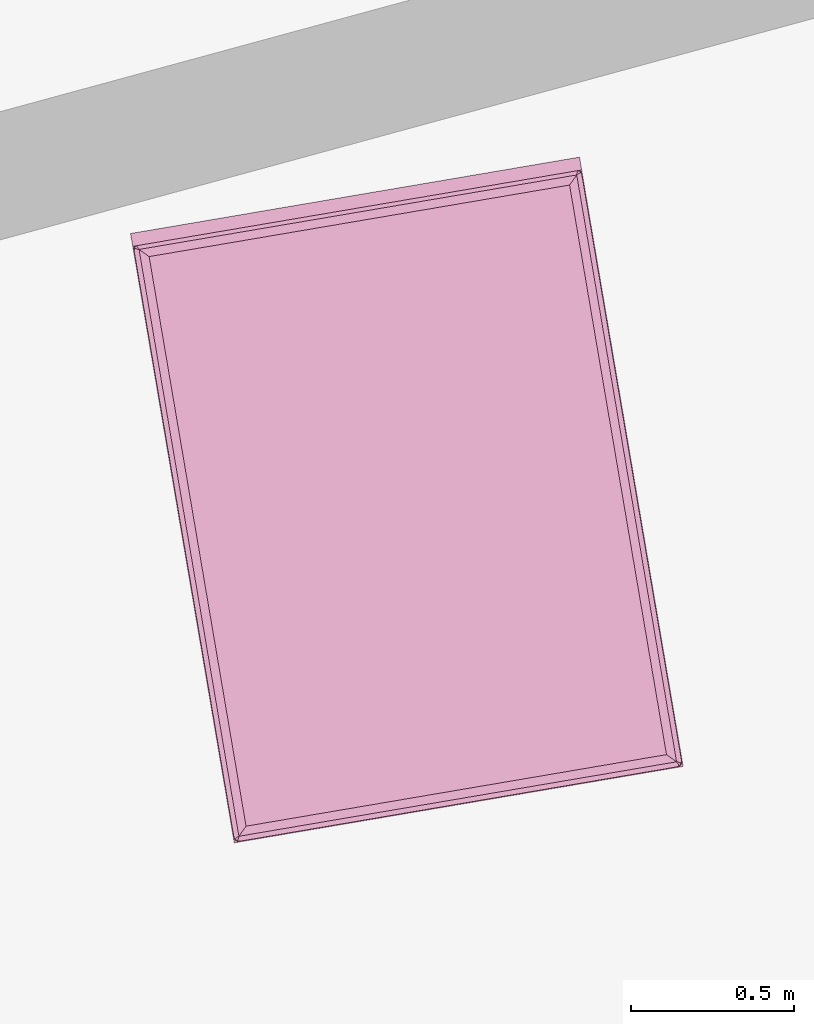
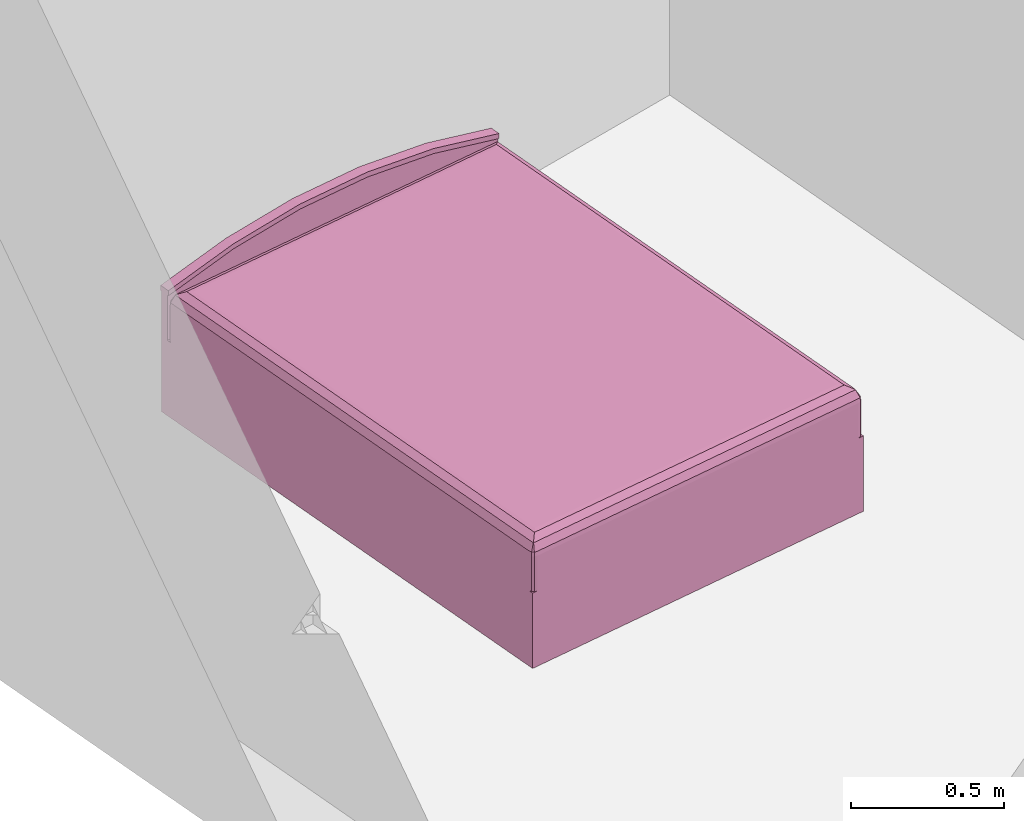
# One storey, part 109 of 121: 1 furnishing.
"""IFC2X3 building model written with IfcOpenShell, lengths in metres."""

import ifcopenshell
import ifcopenshell.guid

model = None  # the IFC model being written
_history = None  # IfcOwnerHistory: only IFC2X3 demands one
_inside = {}  # id of a spatial element -> (the spatial element, [elements in it])
_under = {}  # id of a project, library or spatial element -> (it, [spatial elements below it])
_declared = {}  # id of a project -> (the project, [libraries it declares])
_typed = {}  # id of a type object -> (the type object, [elements of that type])
_made_of = {}  # id of a material, layer set ... -> (it, [elements and type objects made of it])


def new_model(schema):
    """Start an empty IFC model of exactly this schema.

    Asked for "IFC4X3", IfcOpenShell would pick the latest addendum, in which some entities
    have other attributes; the version numbers below select the first issue.
    IFC2X3 requires an IfcOwnerHistory on every rooted entity: one is made here for all.
    """
    global model, _history
    if schema == "IFC4X3":
        model = ifcopenshell.file(schema_version=(4, 3, 0, 0))
    else:
        model = ifcopenshell.file(schema=schema)
    _inside.clear()
    _under.clear()
    _declared.clear()
    _typed.clear()
    _made_of.clear()
    _history = None
    if model.schema == "IFC2X3":
        org = make("IfcOrganization", Name="unknown")
        user = make(
            "IfcPersonAndOrganization",
            ThePerson=make("IfcPerson", FamilyName="unknown"),
            TheOrganization=org,
        )
        app = make(
            "IfcApplication",
            ApplicationDeveloper=org,
            Version="unknown",
            ApplicationFullName="unknown",
            ApplicationIdentifier="unknown",
        )
        _history = make(
            "IfcOwnerHistory",
            OwningUser=user,
            OwningApplication=app,
            ChangeAction="ADDED",
            CreationDate=0,
        )
    return model


def make(cls, **values):
    """One entity of the class cls with the attributes given. An attribute that is None is left unset."""
    return model.create_entity(
        cls, **{name: value for name, value in values.items() if value is not None}
    )


def entity(cls, *values):
    """Any entity or typed value of the class cls, its attributes in the order of the schema. None: left unset."""
    e = model.create_entity(cls)
    for i, value in enumerate(values):
        if value is not None:
            e[i] = value
    return e


def rooted(cls, **values):
    """An entity with a GlobalId (a new one), such as an element, a storey or a relation."""
    return make(cls, GlobalId=ifcopenshell.guid.new(), OwnerHistory=_history, **values)


def si_unit(unit_type, name, prefix=None):
    """IfcSIUnit, for example si_unit("LENGTHUNIT", "METRE", prefix="MILLI")."""
    return make("IfcSIUnit", UnitType=unit_type, Prefix=prefix, Name=name)


def converted_unit(unit_type, name, factor, base, dimensions=None, offset=None):
    """IfcConversionBasedUnit, such as the inch: factor (a typed value) times the base unit."""
    return make(
        "IfcConversionBasedUnit"
        if offset is None
        else "IfcConversionBasedUnitWithOffset",
        ConversionOffset=offset,
        Dimensions=None
        if dimensions is None
        else entity("IfcDimensionalExponents", *dimensions),
        UnitType=unit_type,
        Name=name,
        ConversionFactor=make(
            "IfcMeasureWithUnit", ValueComponent=factor, UnitComponent=base
        ),
    )


def derived_unit(unit_type, elements):
    """IfcDerivedUnit: a product of units, each with its exponent."""
    return make(
        "IfcDerivedUnit",
        Elements=[
            make("IfcDerivedUnitElement", Unit=unit, Exponent=power)
            for unit, power in elements
        ],
        UnitType=unit_type,
    )


def money_unit(currency):
    """IfcMonetaryUnit."""
    return make("IfcMonetaryUnit", Currency=currency)


def assignment(units):
    """IfcUnitAssignment: the units of a project."""
    return None if units is None else make("IfcUnitAssignment", Units=units)


def point(xyz):
    """IfcCartesianPoint."""
    return None if xyz is None else make("IfcCartesianPoint", Coordinates=xyz)


def direction(xyz):
    """IfcDirection."""
    return None if xyz is None else make("IfcDirection", DirectionRatios=xyz)


def frame(location, z_axis=None, x_axis=None):
    """IfcAxis2Placement3D, a coordinate frame: its origin and axes. An axis left out is left unset."""
    return make(
        "IfcAxis2Placement3D",
        Location=point(location),
        Axis=direction(z_axis),
        RefDirection=direction(x_axis),
    )


def origin_with_axes():
    """The frame at (0, 0, 0) with the z axis (0, 0, 1) and the x axis (1, 0, 0) written out."""
    return frame((0.0, 0.0, 0.0), z_axis=(0.0, 0.0, 1.0), x_axis=(1.0, 0.0, 0.0))


def place(relative_to, where):
    """IfcLocalPlacement: puts the frame where relative to a parent placement (None: the world)."""
    return make(
        "IfcLocalPlacement", PlacementRelTo=relative_to, RelativePlacement=where
    )


def context(
    kind, dimensions, precision=None, world=None, true_north=None, identifier=None
):
    """IfcGeometricRepresentationContext, for example the 3D "Model" context."""
    return make(
        "IfcGeometricRepresentationContext",
        ContextIdentifier=identifier,
        ContextType=kind,
        CoordinateSpaceDimension=dimensions,
        Precision=precision,
        WorldCoordinateSystem=world,
        TrueNorth=true_north,
    )


def subcontext(parent, identifier, kind, view, scale=None):
    """IfcGeometricRepresentationSubContext, for example "Body" below "Model"."""
    return make(
        "IfcGeometricRepresentationSubContext",
        ContextIdentifier=identifier,
        ContextType=kind,
        ParentContext=parent,
        TargetScale=scale,
        TargetView=view,
    )


def project(units=None, contexts=None):
    """IfcProject with its units and contexts."""
    return rooted(
        "IfcProject",
        Name="project",
        RepresentationContexts=contexts,
        UnitsInContext=assignment(units),
    )


def spatial(cls, under=None, at=None, **own):
    """A site, building, storey or space (cls), placed at a placement, below another one or the project."""
    s = rooted(cls, ObjectPlacement=at, **own)
    if under is not None:
        _under.setdefault(under.id(), (under, []))[1].append(s)
    return s


def faces_of(points, faces, orient=None, outer=None):
    """IfcFace entities. A face is a list of loops; a loop is a list of indices into points, from 0.

    orient and outer hold one flag for each loop. By default every Orientation is true, the
    first loop of a face is its IfcFaceOuterBound and the others are IfcFaceBound.
    """
    made = []
    for i, loops in enumerate(faces):
        bounds = []
        for j, loop in enumerate(loops):
            is_outer = j == 0 if outer is None else outer[i][j]
            bounds.append(
                make(
                    "IfcFaceOuterBound" if is_outer else "IfcFaceBound",
                    Bound=make("IfcPolyLoop", Polygon=[points[k] for k in loop]),
                    Orientation=True if orient is None else orient[i][j],
                )
            )
        made.append(make("IfcFace", Bounds=bounds))
    return made


def faceted_brep(points, faces, orient=None, outer=None, voids=None):
    """IfcFacetedBrep: a solid bounded by flat faces; with voids (closed shells), ...WithVoids."""
    shared = [point(p) for p in points]
    hull = make("IfcClosedShell", CfsFaces=faces_of(shared, faces, orient, outer))
    if voids is None:
        return make("IfcFacetedBrep", Outer=hull)
    return make(
        "IfcFacetedBrepWithVoids",
        Outer=hull,
        Voids=[
            make(cls, CfsFaces=faces_of(shared, fs, o, b)) for cls, fs, o, b in voids
        ],
    )


def shape(context_of_items, identifier, shape_type, items):
    """IfcShapeRepresentation: the items that make up one representation, for example the "Body"."""
    return make(
        "IfcShapeRepresentation",
        ContextOfItems=context_of_items,
        RepresentationIdentifier=identifier,
        RepresentationType=shape_type,
        Items=items,
    )


def source(mapping_origin, context_of_items, identifier, shape_type, items):
    """IfcRepresentationMap: a shape defined once, which mapped items show again and again."""
    return make(
        "IfcRepresentationMap",
        MappingOrigin=mapping_origin,
        MappedRepresentation=shape(context_of_items, identifier, shape_type, items),
    )


def transform(
    local_origin,
    x_axis=None,
    y_axis=None,
    z_axis=None,
    scale=None,
    scale2=None,
    scale3=None,
    uniform=True,
):
    """IfcCartesianTransformationOperator3D, or its non-uniform kind. x_axis, y_axis, z_axis: its Axis1, 2, 3."""
    if uniform:
        return make(
            "IfcCartesianTransformationOperator3D",
            Axis1=direction(x_axis),
            Axis2=direction(y_axis),
            LocalOrigin=point(local_origin),
            Scale=scale,
            Axis3=direction(z_axis),
        )
    return make(
        "IfcCartesianTransformationOperator3DnonUniform",
        Axis1=direction(x_axis),
        Axis2=direction(y_axis),
        LocalOrigin=point(local_origin),
        Scale=scale,
        Axis3=direction(z_axis),
        Scale2=scale2,
        Scale3=scale3,
    )


def mapped(mapping_source, mapping_target):
    """IfcMappedItem: shows the shape of a source again, moved by a transform."""
    return make(
        "IfcMappedItem", MappingSource=mapping_source, MappingTarget=mapping_target
    )


def made_of(thing, what):
    """Note that an element or type object is made of a material, layer set ...; save() writes the relation."""
    if what is not None:
        _made_of.setdefault(what.id(), (what, []))[1].append(thing)
    return thing


def type_object(cls, material=None, **own):
    """A type object (cls), such as IfcWallType, which elements share."""
    return made_of(rooted(cls, **own), material)


def element(
    cls,
    number,
    at=None,
    inside=None,
    cuts=None,
    type_object=None,
    material=None,
    context=None,
    identifier="Body",
    shape_type=None,
    held_by="IfcProductDefinitionShape",
    body=None,
    shapes=None,
    **own,
):
    """One element of the class cls, such as IfcWall. Its Tag is "e" and its number.

    at: its placement. inside: the storey or other place that contains it. cuts: it is an
    opening in that element (IfcRelVoidsElement). A single representation is given by context,
    identifier, shape_type and body (its items); several are given by shapes. held_by: the class
    of the entity that holds the representations. save() writes the other relations.
    """
    e = rooted(cls, Tag="e%d" % number, ObjectPlacement=at, **own)
    if body is not None:
        shapes = [shape(context, identifier, shape_type, body)]
    if shapes is not None:
        e.Representation = make(held_by, Representations=shapes)
    if inside is not None:
        _inside.setdefault(inside.id(), (inside, []))[1].append(e)
    if cuts is not None:
        rooted(
            "IfcRelVoidsElement", RelatingBuildingElement=cuts, RelatedOpeningElement=e
        )
    if type_object is not None:
        _typed.setdefault(type_object.id(), (type_object, []))[1].append(e)
    return made_of(e, material)


def aggregate(whole, parts):
    """IfcRelAggregates: a whole, such as a stair, and the parts it consists of."""
    return rooted("IfcRelAggregates", RelatingObject=whole, RelatedObjects=parts)


def save(model, path):
    """Write the relations noted so far, then the file.

    IfcRelAggregates (storeys below a building ...), IfcRelContainedInSpatialStructure (elements
    in a storey), IfcRelDefinesByType, IfcRelAssociatesMaterial and IfcRelDeclares: one each for
    every whole, place, type object, material and project.
    """
    for whole, parts in _under.values():
        aggregate(whole, parts)
    for where, things in _inside.values():
        rooted(
            "IfcRelContainedInSpatialStructure",
            RelatedElements=things,
            RelatingStructure=where,
        )
    for kind, things in _typed.values():
        rooted("IfcRelDefinesByType", RelatedObjects=things, RelatingType=kind)
    for what, things in _made_of.values():
        rooted("IfcRelAssociatesMaterial", RelatedObjects=things, RelatingMaterial=what)
    for by, libraries in _declared.values():
        rooted("IfcRelDeclares", RelatingContext=by, RelatedDefinitions=libraries)
    model.write(path)


model = new_model("IFC2X3")

# Units and contexts
model_context = context("Model", 3, precision=1e-05, world=origin_with_axes(), true_north=direction((0.0, 1.0)))
body_context = subcontext(model_context, "Body", "Model", "MODEL_VIEW")
ifc_project = project(units=[si_unit("LENGTHUNIT", "METRE"), si_unit("AREAUNIT", "SQUARE_METRE"), si_unit("VOLUMEUNIT", "CUBIC_METRE"), converted_unit("PLANEANGLEUNIT", "DEGREE", entity("IfcPlaneAngleMeasure", 0.0174532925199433), si_unit("PLANEANGLEUNIT", "RADIAN"), dimensions=[0, 0, 0, 0, 0, 0, 0]), money_unit("CHF"), converted_unit("TIMEUNIT", "Year", entity("IfcTimeMeasure", 31557600.0), si_unit("TIMEUNIT", "SECOND"), dimensions=[0, 0, 1, 0, 0, 0, 0]), si_unit("MASSUNIT", "GRAM", prefix="KILO"), si_unit("THERMODYNAMICTEMPERATUREUNIT", "DEGREE_CELSIUS"), si_unit("LUMINOUSINTENSITYUNIT", "LUMEN"), si_unit("ENERGYUNIT", "JOULE", prefix="MEGA"), derived_unit("THERMALCONDUCTANCEUNIT", [(si_unit("POWERUNIT", "WATT"), 1), (si_unit("LENGTHUNIT", "METRE"), -1), (si_unit("THERMODYNAMICTEMPERATUREUNIT", "KELVIN"), -1)]), derived_unit("SPECIFICHEATCAPACITYUNIT", [(si_unit("ENERGYUNIT", "JOULE"), 1), (si_unit("MASSUNIT", "GRAM", prefix="KILO"), -1), (si_unit("THERMODYNAMICTEMPERATUREUNIT", "KELVIN"), -1)]), derived_unit("MASSDENSITYUNIT", [(si_unit("MASSUNIT", "GRAM", prefix="KILO"), 1), (si_unit("VOLUMEUNIT", "CUBIC_METRE"), -1)])], contexts=[model_context])

# Site, building, storey
site_placement = place(None, origin_with_axes())
site = spatial("IfcSite", under=ifc_project, at=site_placement, Name="Site", CompositionType="ELEMENT")
building_placement = place(site_placement, origin_with_axes())
building = spatial("IfcBuilding", under=site, at=building_placement, Name="Bâtiment", CompositionType="ELEMENT")
storey_placement = place(building_placement, frame((0.0, 0.0, 2.75), z_axis=(0.0, 0.0, 1.0), x_axis=(1.0, 0.0, 0.0)))
storey = spatial("IfcBuildingStorey", under=building, at=storey_placement, Name="Etage 1", CompositionType="ELEMENT", Elevation=2.75)

# Furnishing
furnishing_element_type = type_object("IfcFurnishingElementType", Name="Lit double 01")
shared_shape = source(origin_with_axes(), body_context, "Body", "Brep", [
    faceted_brep([(0.0, 1.895, 0.0), (1.4, 1.895, 0.0), (1.4, 1.865, 0.0), (0.0, 1.865, 0.0), (0.0, 1.895, 0.48), (0.276362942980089, 1.895, 0.5438448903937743), (0.558179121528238, 1.895, 0.5759741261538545), (0.8418208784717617, 1.895, 0.5759741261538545), (1.123637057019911, 1.895, 0.5438448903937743), (1.4, 1.895, 0.48), (1.4, 1.895, 0.4799), (1.4, 1.865, 0.4799), (1.4, 1.865, 0.48), (1.123637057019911, 1.865, 0.5438448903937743), (0.8418208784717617, 1.865, 0.5759741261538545), (0.558179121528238, 1.865, 0.5759741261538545), (0.276362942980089, 1.865, 0.5438448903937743), (0.0, 1.865, 0.48)], [[[0, 1, 2, 3]], [[0, 4, 5, 6, 7, 8, 9, 10, 1]], [[1, 10, 11, 2]], [[3, 2, 11, 12, 13, 14, 15, 16, 17]], [[4, 0, 3, 17]], [[5, 4, 17, 16]], [[6, 5, 16, 15]], [[7, 6, 15, 14]], [[8, 7, 14, 13]], [[9, 8, 13, 12]], [[10, 9, 12, 11]]]),
    faceted_brep([(1.4, 1.9, 0.48), (1.399999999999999, 1.9, 0.4999999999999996), (1.399999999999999, 1.86, 0.4999999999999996), (1.4, 1.86, 0.48), (1.123637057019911, 1.9, 0.5438448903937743), (0.8418208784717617, 1.9, 0.5759741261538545), (0.558179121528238, 1.9, 0.5759741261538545), (0.276362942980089, 1.9, 0.5438448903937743), (0.0, 1.9, 0.48), (0.0, 1.9, 0.4999), (0.0, 1.9, 0.5), (0.276362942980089, 1.9, 0.5638448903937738), (0.5581791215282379, 1.9, 0.5959741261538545), (0.8418208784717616, 1.9, 0.5959741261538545), (1.123637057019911, 1.9, 0.5638448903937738), (1.123637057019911, 1.86, 0.5638448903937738), (0.8418208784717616, 1.86, 0.5959741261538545), (0.5581791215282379, 1.86, 0.5959741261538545), (0.276362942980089, 1.86, 0.5638448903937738), (0.0, 1.86, 0.5), (0.0, 1.86, 0.4999), (0.0, 1.86, 0.48), (0.276362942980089, 1.86, 0.5438448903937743), (0.558179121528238, 1.86, 0.5759741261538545), (0.8418208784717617, 1.86, 0.5759741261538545), (1.123637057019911, 1.86, 0.5438448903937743)], [[[0, 1, 2, 3]], [[0, 4, 5, 6, 7, 8, 9, 10, 11, 12, 13, 14, 1]], [[1, 14, 15, 2]], [[3, 2, 15, 16, 17, 18, 19, 20, 21, 22, 23, 24, 25]], [[4, 0, 3, 25]], [[5, 4, 25, 24]], [[6, 5, 24, 23]], [[7, 6, 23, 22]], [[8, 7, 22, 21]], [[9, 8, 21, 20]], [[10, 9, 20, 19]], [[11, 10, 19, 18]], [[12, 11, 18, 17]], [[13, 12, 17, 16]], [[14, 13, 16, 15]]]),
    faceted_brep([(1.4, 0.0, 0.0), (0.0, 0.0, 0.0), (0.0, 1.865, 0.0), (1.4, 1.865, 0.0), (1.4, 0.0, 0.3), (0.0, 0.0, 0.3), (0.0, 1.865, 0.3), (1.4, 1.865, 0.3)], [[[0, 1, 2, 3]], [[1, 0, 4, 5]], [[2, 1, 5, 6]], [[3, 2, 6, 7]], [[0, 3, 7, 4]], [[5, 4, 7, 6]]]),
    faceted_brep([(0.0, 0.02, 0.43), (0.0, 1.845, 0.43), (0.002679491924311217, 1.855, 0.43), (0.009999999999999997, 1.862320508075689, 0.43), (0.02, 1.865, 0.43), (1.38, 1.865, 0.43), (1.39, 1.862320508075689, 0.43), (1.397320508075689, 1.855, 0.43), (1.4, 1.845, 0.43), (1.4, 0.02, 0.43), (1.397320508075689, 0.009999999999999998, 0.43), (1.39, 0.002679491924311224, 0.43), (1.38, 0.0, 0.43), (0.01999999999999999, 0.0, 0.43), (0.009999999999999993, 0.002679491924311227, 0.43), (0.002679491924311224, 0.01, 0.43), (-3.895163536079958e-10, 0.02000000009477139, 0.44), (-3.895163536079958e-10, 1.845000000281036, 0.44), (0.002679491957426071, 1.855000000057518, 0.44), (0.0100000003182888, 1.862320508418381, 0.44), (0.02000000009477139, 1.864999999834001, 0.44), (1.380000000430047, 1.864999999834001, 0.44), (1.39000000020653, 1.862320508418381, 0.44), (1.39732050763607, 1.855000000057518, 0.44), (1.399999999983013, 1.845000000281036, 0.44), (1.399999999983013, 0.02000000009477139, 0.44), (1.39732050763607, 0.0100000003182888, 0.44), (1.39000000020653, 0.002679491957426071, 0.44), (1.380000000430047, -3.895163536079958e-10, 0.44), (0.02000000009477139, -3.895163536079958e-10, 0.44), (0.0100000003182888, 0.002679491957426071, 0.44), (0.002679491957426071, 0.0100000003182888, 0.44), (0.002044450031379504, 0.02026915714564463, 0.4555291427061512), (0.002044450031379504, 1.844730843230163, 0.4555291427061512), (0.004512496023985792, 1.853941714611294, 0.4555291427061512), (0.01105828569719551, 1.860487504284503, 0.4555291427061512), (0.02026915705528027, 1.862955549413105, 0.4555291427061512), (1.379730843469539, 1.862955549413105, 0.4555291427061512), (1.388941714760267, 1.860487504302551, 0.4555291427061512), (1.395487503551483, 1.853941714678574, 0.4555291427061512), (1.397955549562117, 1.844730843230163, 0.4555291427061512), (1.397955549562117, 0.02026915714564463, 0.4555291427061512), (1.395487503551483, 0.01105828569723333, 0.4555291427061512), (1.388941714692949, 0.004512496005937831, 0.4555291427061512), (1.379730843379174, 0.002044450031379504, 0.4555291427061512), (0.02026915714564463, 0.002044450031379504, 0.4555291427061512), (0.01105828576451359, 0.004512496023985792, 0.4555291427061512), (0.004512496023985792, 0.01105828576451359, 0.4555291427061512), (0.01757359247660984, 0.02231360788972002, 0.4824264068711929), (0.01757359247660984, 1.842686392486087, 0.4824264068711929), (0.01843554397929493, 1.845903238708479, 0.4824264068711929), (0.01909676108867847, 1.846564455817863, 0.4824264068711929), (0.02231360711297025, 1.847426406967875, 0.4824264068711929), (1.377686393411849, 1.847426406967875, 0.4824264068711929), (1.380903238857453, 1.846564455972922, 0.4824264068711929), (1.381564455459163, 1.845903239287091, 0.4824264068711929), (1.382426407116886, 1.842686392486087, 0.4824264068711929), (1.382426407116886, 0.02231360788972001, 0.4824264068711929), (1.381564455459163, 0.01909676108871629, 0.4824264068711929), (1.380903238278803, 0.01843554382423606, 0.4824264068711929), (1.377686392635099, 0.01757359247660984, 0.4824264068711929), (0.02231360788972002, 0.01757359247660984, 0.4824264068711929), (0.01909676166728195, 0.01843554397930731, 0.4824264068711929), (0.01843554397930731, 0.01909676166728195, 0.4824264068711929), (0.02303225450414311, 0.02303225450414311, 0.4855779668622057), (0.04447085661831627, 0.04447085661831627, 0.4979555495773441), (0.04447085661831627, 1.820529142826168, 0.4979555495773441), (0.02303225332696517, 1.841967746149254, 0.48557796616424), (0.02000000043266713, 1.844999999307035, 0.4834338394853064), (1.35552914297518, 1.820529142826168, 0.4979555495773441), (1.376967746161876, 1.841967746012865, 0.4855779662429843), (1.380000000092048, 1.845000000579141, 0.4834338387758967), (1.35552914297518, 0.04447085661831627, 0.4979555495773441), (1.376967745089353, 0.02303225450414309, 0.4855779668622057), (1.379999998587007, 0.02000000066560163, 0.4834338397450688), (0.02000000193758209, 0.02000000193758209, 0.4834338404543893), (0.05999999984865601, 0.05999999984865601, 0.5000000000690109), (0.05999999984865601, 1.804999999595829, 0.5000000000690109), (1.33999999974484, 1.804999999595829, 0.5000000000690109), (1.33999999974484, 0.05999999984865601, 0.5000000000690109)], [[[0, 1, 2, 3, 4, 5, 6, 7, 8, 9, 10, 11, 12, 13, 14, 15]], [[1, 0, 16, 17]], [[2, 1, 17, 18]], [[3, 2, 18, 19]], [[4, 3, 19, 20]], [[5, 4, 20, 21]], [[6, 5, 21, 22]], [[7, 6, 22, 23]], [[8, 7, 23, 24]], [[9, 8, 24, 25]], [[10, 9, 25, 26]], [[11, 10, 26, 27]], [[12, 11, 27, 28]], [[13, 12, 28, 29]], [[14, 13, 29, 30]], [[15, 14, 30, 31]], [[0, 15, 31, 16]], [[17, 16, 32, 33]], [[18, 17, 33, 34]], [[19, 18, 34, 35]], [[20, 19, 35, 36]], [[21, 20, 36, 37]], [[22, 21, 37, 38]], [[23, 22, 38, 39]], [[24, 23, 39, 40]], [[25, 24, 40, 41]], [[26, 25, 41, 42]], [[27, 26, 42, 43]], [[28, 27, 43, 44]], [[29, 28, 44, 45]], [[30, 29, 45, 46]], [[31, 30, 46, 47]], [[16, 31, 47, 32]], [[33, 32, 48, 49]], [[34, 33, 49, 50]], [[35, 34, 50, 51]], [[36, 35, 51, 52]], [[37, 36, 52, 53]], [[38, 37, 53, 54]], [[39, 38, 54, 55]], [[40, 39, 55, 56]], [[41, 40, 56, 57]], [[42, 41, 57, 58]], [[43, 42, 58, 59]], [[44, 43, 59, 60]], [[45, 44, 60, 61]], [[46, 45, 61, 62]], [[47, 46, 62, 63]], [[32, 47, 63, 48]], [[49, 48, 64, 65, 66, 67]], [[50, 49, 67, 68]], [[51, 50, 68]], [[52, 51, 68, 67]], [[53, 52, 67, 66, 69, 70]], [[54, 53, 70, 71]], [[55, 54, 71]], [[56, 55, 71, 70]], [[57, 56, 70, 69, 72, 73]], [[58, 57, 73, 74]], [[59, 58, 74]], [[60, 59, 74, 73]], [[61, 60, 73, 72, 65, 64]], [[62, 61, 64, 75]], [[63, 62, 75]], [[48, 63, 75, 64]], [[66, 65, 76, 77]], [[69, 66, 77, 78]], [[72, 69, 78, 79]], [[65, 72, 79, 76]], [[78, 77, 76, 79]]]),
    faceted_brep([(0.0, 0.02000000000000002, 0.3099999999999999), (-3.895163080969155e-10, 0.02000000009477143, 0.2999999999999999), (0.002679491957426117, 0.01000000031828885, 0.2999999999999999), (0.002679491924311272, 0.01000000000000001, 0.3099999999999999), (0.0, 1.845, 0.3099999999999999), (-3.895163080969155e-10, 1.845000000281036, 0.2999999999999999), (0.002679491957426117, 1.855000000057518, 0.2999999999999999), (0.01000000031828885, 1.862320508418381, 0.2999999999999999), (0.02000000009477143, 1.864999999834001, 0.2999999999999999), (1.380000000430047, 1.864999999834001, 0.2999999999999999), (1.39000000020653, 1.862320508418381, 0.2999999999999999), (1.39732050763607, 1.855000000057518, 0.2999999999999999), (1.399999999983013, 1.845000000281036, 0.2999999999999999), (1.399999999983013, 0.02000000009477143, 0.2999999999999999), (1.39732050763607, 0.01000000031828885, 0.2999999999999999), (1.39000000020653, 0.002679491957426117, 0.2999999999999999), (1.380000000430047, -3.895163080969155e-10, 0.2999999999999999), (0.02000000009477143, -3.895163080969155e-10, 0.2999999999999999), (0.01000000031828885, 0.002679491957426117, 0.2999999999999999), (0.01000000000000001, 0.002679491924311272, 0.3099999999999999), (0.02000000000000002, 0.0, 0.3099999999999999), (1.38, 0.0, 0.3099999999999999), (1.39, 0.002679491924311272, 0.3099999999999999), (1.397320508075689, 0.01000000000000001, 0.3099999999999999), (1.4, 0.02000000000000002, 0.3099999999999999), (1.4, 1.845, 0.3099999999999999), (1.397320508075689, 1.855, 0.3099999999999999), (1.39, 1.862320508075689, 0.3099999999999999), (1.38, 1.865, 0.3099999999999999), (0.02000000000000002, 1.865, 0.3099999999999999), (0.01000000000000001, 1.862320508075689, 0.3099999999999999), (0.002679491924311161, 1.855, 0.3099999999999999)], [[[0, 1, 2, 3]], [[1, 0, 4, 5]], [[2, 1, 5, 6, 7, 8, 9, 10, 11, 12, 13, 14, 15, 16, 17, 18]], [[3, 2, 18, 19]], [[3, 19, 20, 21, 22, 23, 24, 25, 26, 27, 28, 29, 30, 31, 4, 0]], [[5, 4, 31, 6]], [[6, 31, 30, 7]], [[7, 30, 29, 8]], [[8, 29, 28, 9]], [[27, 10, 9, 28]], [[10, 27, 26, 11]], [[11, 26, 25, 12]], [[24, 13, 12, 25]], [[23, 14, 13, 24]], [[22, 15, 14, 23]], [[21, 16, 15, 22]], [[20, 17, 16, 21]], [[18, 17, 20, 19]]]),
    faceted_brep([(0.0, 0.02, 0.3099999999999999), (0.002679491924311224, 0.01, 0.3099999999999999), (0.002679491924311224, 0.01, 0.4299999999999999), (0.0, 0.02, 0.4299999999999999), (0.0, 1.845, 0.3099999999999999), (0.002679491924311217, 1.855, 0.3099999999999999), (0.009999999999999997, 1.862320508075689, 0.3099999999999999), (0.02, 1.865, 0.3099999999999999), (1.38, 1.865, 0.3099999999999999), (1.39, 1.862320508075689, 0.3099999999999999), (1.397320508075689, 1.855, 0.3099999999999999), (1.4, 1.845, 0.3099999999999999), (1.4, 0.02, 0.3099999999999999), (1.397320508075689, 0.009999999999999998, 0.3099999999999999), (1.39, 0.002679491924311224, 0.3099999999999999), (1.38, 0.0, 0.3099999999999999), (0.01999999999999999, 0.0, 0.3099999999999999), (0.009999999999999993, 0.002679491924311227, 0.3099999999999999), (0.009999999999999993, 0.002679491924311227, 0.4299999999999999), (0.01999999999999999, 0.0, 0.4299999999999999), (1.38, 0.0, 0.4299999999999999), (1.39, 0.002679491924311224, 0.4299999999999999), (1.397320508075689, 0.009999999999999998, 0.4299999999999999), (1.4, 0.02, 0.4299999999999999), (1.4, 1.845, 0.4299999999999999), (1.397320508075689, 1.855, 0.4299999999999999), (1.39, 1.862320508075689, 0.4299999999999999), (1.38, 1.865, 0.4299999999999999), (0.02, 1.865, 0.4299999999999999), (0.009999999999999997, 1.862320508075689, 0.4299999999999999), (0.002679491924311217, 1.855, 0.4299999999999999), (0.0, 1.845, 0.4299999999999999)], [[[0, 1, 2, 3]], [[0, 4, 5, 6, 7, 8, 9, 10, 11, 12, 13, 14, 15, 16, 17, 1]], [[1, 17, 18, 2]], [[3, 2, 18, 19, 20, 21, 22, 23, 24, 25, 26, 27, 28, 29, 30, 31]], [[4, 0, 3, 31]], [[5, 4, 31, 30]], [[6, 5, 30, 29]], [[7, 6, 29, 28]], [[8, 7, 28, 27]], [[9, 8, 27, 26]], [[10, 9, 26, 25]], [[11, 10, 25, 24]], [[12, 11, 24, 23]], [[13, 12, 23, 22]], [[14, 13, 22, 21]], [[15, 14, 21, 20]], [[16, 15, 20, 19]], [[17, 16, 19, 18]]]),
])
furnishing_placement = place(storey_placement, frame((9581.501453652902, -1024.637789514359, 57.7), z_axis=(0.0, 0.0, 1.0), x_axis=(0.9858290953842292, 0.1677527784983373, 0.0)))
element("IfcFurnishingElement", 1, at=furnishing_placement, inside=storey, type_object=furnishing_element_type, Name="Obj.-002", context=body_context, shape_type="MappedRepresentation", body=[
    mapped(shared_shape, transform((0.0, 0.0, 0.0))),
])

save(model, "model.ifc")
